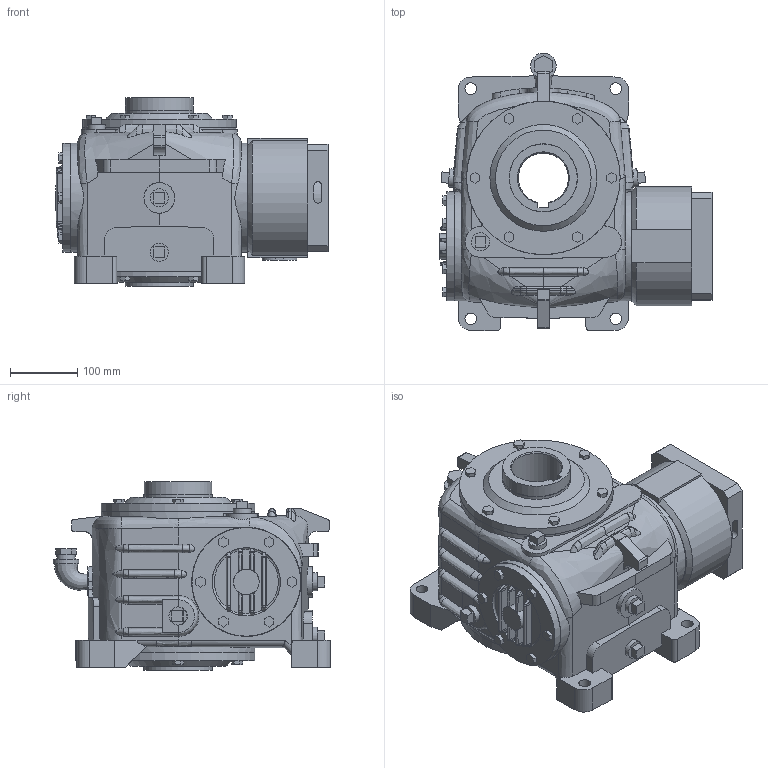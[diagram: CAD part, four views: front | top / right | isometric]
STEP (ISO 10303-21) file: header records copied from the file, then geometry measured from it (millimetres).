
FILE_DESCRIPTION(/* description */ ('Unknown'),/* implementation_level */ '2;1');
FILE_NAME(/* name */ 'V40CR-7AB12CBE-',/* time_stamp */ '2024-11-21T11:09:38-05:00',/* author */ ('Unknown'),/* organization */ ('Unknown'),/* preprocessor_version */ 'ST-DEVELOPER v19.4',/* originating_system */ 'Solid Edge',/* authorisation */ 'Unknown');
FILE_SCHEMA (('AUTOMOTIVE_DESIGN {1 0 10303 214 3 1 1}'));
Length unit declared in the file: millimetre
Products named in the file (8): V40CR-7AB12CBE-; 40-5-CP; 40-OUTHS-2937; 40-OUTH-2937; 40-WCAP; 40-SM20-CP; MP3B-12-CP; KLC125-C-16
Assembly tree (7 placements, depth 2):
  V40CR-7AB12CBE-
    40-5-CP
    40-OUTHS-2937
    40-OUTH-2937
    40-WCAP
    40-SM20-CP
    MP3B-12-CP
    KLC125-C-16
Bounding box: 404.95 x 413.28 x 280.99 mm (x, y, z)
Volume: 18504570.5 mm3; surface area: 1193502.5 mm2
Topology: 7 solids, 7 shells, 708 faces, 1802 edges, 1178 vertices
Faces by surface type: plane 449, cylinder 121, bspline 113, torus 13, cone 12
Full cylindrical faces by diameter (mm): 0.254 x7, 5.188 x4, 9.525 x8, 14.122 x6, 17.462 x4, 26.924 x6, 38.087 x1, 38.1 x2, 39.688 x1, 45.72 x1, 63 x1, 77 x1, 80 x1, 98.425 x1, 100.965 x1, 101.6 x5, 102.108 x3, 105 x1, 120.218 x1, 150.012 x1, 150.05 x1, 161.925 x1, 162.56 x2, 228.599 x2, 228.6 x2
Entity records: 26960 total; most frequent: CARTESIAN_POINT 9314, ORIENTED_EDGE 3418, DIRECTION 2936, EDGE_CURVE 1709, VERTEX_POINT 1158, LINE 1010, VECTOR 1010, AXIS2_PLACEMENT_3D 963
